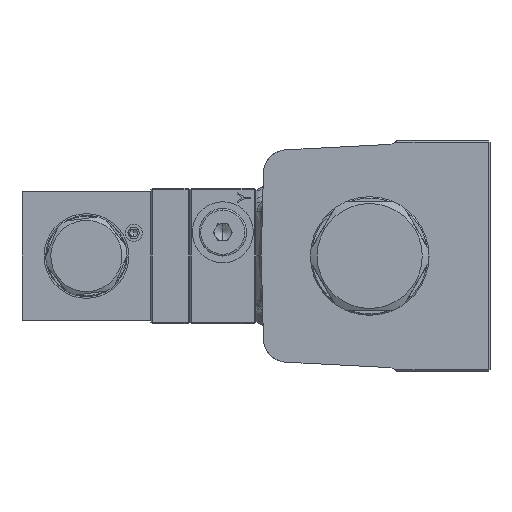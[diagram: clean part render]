
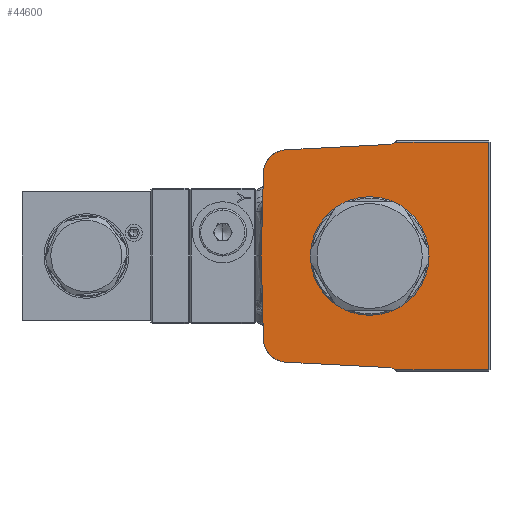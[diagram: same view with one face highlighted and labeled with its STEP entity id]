
A CAD part, left-side view. The second image highlights one B-rep face of the part: STEP entity #44600.
In plain terms, the highlighted planar face has unit normal (-1, 0, 0).
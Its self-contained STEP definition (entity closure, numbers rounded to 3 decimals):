
#375 = EDGE_CURVE ( 'NONE', #61215, #80076, #78646, .T. ) ;
#387 = LINE ( 'NONE', #1226, #75659 ) ;
#750 = EDGE_CURVE ( 'NONE', #77781, #33277, #2179, .T. ) ;
#1226 = CARTESIAN_POINT ( 'NONE',  ( -46.6, -35., -34. ) ) ;
#1657 = AXIS2_PLACEMENT_3D ( 'NONE', #69534, #19545, #32067 ) ;
#2179 = CIRCLE ( 'NONE', #81119, 7. ) ;
#2203 = EDGE_CURVE ( 'NONE', #48576, #56579, #36891, .T. ) ;
#2226 = CIRCLE ( 'NONE', #16373, 3. ) ;
#2984 = CIRCLE ( 'NONE', #1657, 7. ) ;
#4309 = DIRECTION ( 'NONE',  ( 0., -0.026, -1. ) ) ;
#4529 = ORIENTED_EDGE ( 'NONE', *, *, #14540, .T. ) ;
#5450 = CARTESIAN_POINT ( 'NONE',  ( -46.6, -5.693, 35.936 ) ) ;
#6453 = FACE_BOUND ( 'NONE', #38158, .T. ) ;
#7222 = DIRECTION ( 'NONE',  ( 0., -1., 0. ) ) ;
#7841 = CARTESIAN_POINT ( 'NONE',  ( -46.6, -5.693, -35.936 ) ) ;
#8915 = EDGE_CURVE ( 'NONE', #80076, #68081, #387, .T. ) ;
#9697 = VECTOR ( 'NONE', #39644, 1000. ) ;
#10271 = EDGE_CURVE ( 'NONE', #77781, #48953, #56761, .T. ) ;
#10874 = DIRECTION ( 'NONE',  ( 0., -0.999, -0.052 ) ) ;
#11026 = VERTEX_POINT ( 'NONE', #80133 ) ;
#11122 = ORIENTED_EDGE ( 'NONE', *, *, #12530, .T. ) ;
#12062 = CARTESIAN_POINT ( 'NONE',  ( -46.6, -7.444, -33.5 ) ) ;
#12530 = EDGE_CURVE ( 'NONE', #11026, #48953, #77303, .T. ) ;
#14540 = EDGE_CURVE ( 'NONE', #28316, #61215, #2226, .T. ) ;
#15502 = CARTESIAN_POINT ( 'NONE',  ( -46.6, -35.5, -34. ) ) ;
#16027 = DIRECTION ( 'NONE',  ( 0., 0., 1. ) ) ;
#16075 = CARTESIAN_POINT ( 'NONE',  ( -46.6, 31.978, -0.837 ) ) ;
#16206 = ORIENTED_EDGE ( 'NONE', *, *, #37395, .F. ) ;
#16373 = AXIS2_PLACEMENT_3D ( 'NONE', #7841, #21477, #51750 ) ;
#18042 = CARTESIAN_POINT ( 'NONE',  ( -46.6, 31.358, -24.53 ) ) ;
#18208 = ORIENTED_EDGE ( 'NONE', *, *, #38432, .T. ) ;
#19545 = DIRECTION ( 'NONE',  ( 1., 0., 0. ) ) ;
#20483 = CARTESIAN_POINT ( 'NONE',  ( -46.6, 0., 0. ) ) ;
#21477 = DIRECTION ( 'NONE',  ( 1., 0., 0. ) ) ;
#21664 = CIRCLE ( 'NONE', #22057, 16. ) ;
#22057 = AXIS2_PLACEMENT_3D ( 'NONE', #20483, #58133, #70737 ) ;
#26131 = CIRCLE ( 'NONE', #60396, 16. ) ;
#26755 = ORIENTED_EDGE ( 'NONE', *, *, #61665, .T. ) ;
#28316 = VERTEX_POINT ( 'NONE', #78386 ) ;
#29599 = DIRECTION ( 'NONE',  ( 0., -0.999, 0.052 ) ) ;
#31175 = ORIENTED_EDGE ( 'NONE', *, *, #750, .T. ) ;
#31749 = CARTESIAN_POINT ( 'NONE',  ( -46.6, -16., 0. ) ) ;
#31965 = VERTEX_POINT ( 'NONE', #32302 ) ;
#32067 = DIRECTION ( 'NONE',  ( 0., 0., 1. ) ) ;
#32165 = LINE ( 'NONE', #39361, #9697 ) ;
#32302 = CARTESIAN_POINT ( 'NONE',  ( -46.6, 24.726, -31.337 ) ) ;
#33102 = CARTESIAN_POINT ( 'NONE',  ( -46.6, -35.5, 33.5 ) ) ;
#33176 = ORIENTED_EDGE ( 'NONE', *, *, #66497, .F. ) ;
#33277 = VERTEX_POINT ( 'NONE', #56061 ) ;
#33536 = AXIS2_PLACEMENT_3D ( 'NONE', #15502, #34048, #16027 ) ;
#34048 = DIRECTION ( 'NONE',  ( -1., 0., 0. ) ) ;
#36714 = EDGE_CURVE ( 'NONE', #59312, #73604, #26131, .T. ) ;
#36891 = LINE ( 'NONE', #16075, #80025 ) ;
#37305 = DIRECTION ( 'NONE',  ( -1., 0., 0. ) ) ;
#37395 = EDGE_CURVE ( 'NONE', #48576, #33277, #32165, .T. ) ;
#37420 = ORIENTED_EDGE ( 'NONE', *, *, #2203, .T. ) ;
#38158 = EDGE_LOOP ( 'NONE', ( #49921, #68826 ) ) ;
#38432 = EDGE_CURVE ( 'NONE', #68081, #11026, #76851, .T. ) ;
#39080 = CARTESIAN_POINT ( 'NONE',  ( -46.6, 0., 0. ) ) ;
#39361 = CARTESIAN_POINT ( 'NONE',  ( -46.6, 31.978, 0.837 ) ) ;
#39644 = DIRECTION ( 'NONE',  ( 0., -0.026, 1. ) ) ;
#39689 = PLANE ( 'NONE',  #33536 ) ;
#42163 = DIRECTION ( 'NONE',  ( 1., 0., 0. ) ) ;
#43281 = CARTESIAN_POINT ( 'NONE',  ( -46.6, -35., 33.5 ) ) ;
#43282 = DIRECTION ( 'NONE',  ( 0., 0., 1. ) ) ;
#44600 = ADVANCED_FACE ( 'NONE', ( #71971, #6453 ), #39689, .T. ) ;
#44826 = CARTESIAN_POINT ( 'NONE',  ( -46.6, -35.5, -33.5 ) ) ;
#46328 = CARTESIAN_POINT ( 'NONE',  ( -46.6, -5.85, 32.94 ) ) ;
#48576 = VERTEX_POINT ( 'NONE', #61403 ) ;
#48820 = CARTESIAN_POINT ( 'NONE',  ( -46.6, 24.726, 31.337 ) ) ;
#48953 = VERTEX_POINT ( 'NONE', #46328 ) ;
#49277 = VECTOR ( 'NONE', #68444, 1000. ) ;
#49921 = ORIENTED_EDGE ( 'NONE', *, *, #74836, .F. ) ;
#50775 = VECTOR ( 'NONE', #10874, 1000. ) ;
#51750 = DIRECTION ( 'NONE',  ( 0., 0., 1. ) ) ;
#54824 = AXIS2_PLACEMENT_3D ( 'NONE', #5450, #42163, #43282 ) ;
#56061 = CARTESIAN_POINT ( 'NONE',  ( -46.6, 31.358, 24.53 ) ) ;
#56579 = VERTEX_POINT ( 'NONE', #18042 ) ;
#56660 = DIRECTION ( 'NONE',  ( -1., 0., 0. ) ) ;
#56761 = LINE ( 'NONE', #80137, #68508 ) ;
#58133 = DIRECTION ( 'NONE',  ( -1., 0., 0. ) ) ;
#59312 = VERTEX_POINT ( 'NONE', #76463 ) ;
#60396 = AXIS2_PLACEMENT_3D ( 'NONE', #39080, #56660, #7222 ) ;
#60984 = ORIENTED_EDGE ( 'NONE', *, *, #375, .T. ) ;
#61215 = VERTEX_POINT ( 'NONE', #12062 ) ;
#61403 = CARTESIAN_POINT ( 'NONE',  ( -46.6, 32., 0. ) ) ;
#61665 = EDGE_CURVE ( 'NONE', #31965, #28316, #63536, .T. ) ;
#62269 = CARTESIAN_POINT ( 'NONE',  ( -46.6, 24.36, 24.347 ) ) ;
#63536 = LINE ( 'NONE', #72581, #50775 ) ;
#66497 = EDGE_CURVE ( 'NONE', #31965, #56579, #2984, .T. ) ;
#66890 = CARTESIAN_POINT ( 'NONE',  ( -46.6, -35., -33.5 ) ) ;
#68081 = VERTEX_POINT ( 'NONE', #43281 ) ;
#68444 = DIRECTION ( 'NONE',  ( 0., -1., 0. ) ) ;
#68508 = VECTOR ( 'NONE', #29599, 1000. ) ;
#68826 = ORIENTED_EDGE ( 'NONE', *, *, #36714, .F. ) ;
#69012 = DIRECTION ( 'NONE',  ( 0., 0., 1. ) ) ;
#69534 = CARTESIAN_POINT ( 'NONE',  ( -46.6, 24.36, -24.347 ) ) ;
#69749 = DIRECTION ( 'NONE',  ( 0., 1., 0. ) ) ;
#69859 = EDGE_LOOP ( 'NONE', ( #4529, #60984, #77047, #18208, #11122, #74630, #31175, #16206, #37420, #33176, #26755 ) ) ;
#70084 = VECTOR ( 'NONE', #69749, 1000. ) ;
#70737 = DIRECTION ( 'NONE',  ( 0., -1., 0. ) ) ;
#71971 = FACE_OUTER_BOUND ( 'NONE', #69859, .T. ) ;
#72581 = CARTESIAN_POINT ( 'NONE',  ( -46.6, 1.706, -32.544 ) ) ;
#73604 = VERTEX_POINT ( 'NONE', #31749 ) ;
#74630 = ORIENTED_EDGE ( 'NONE', *, *, #10271, .F. ) ;
#74836 = EDGE_CURVE ( 'NONE', #73604, #59312, #21664, .T. ) ;
#75659 = VECTOR ( 'NONE', #69012, 1000. ) ;
#76463 = CARTESIAN_POINT ( 'NONE',  ( -46.6, 16., 0. ) ) ;
#76851 = LINE ( 'NONE', #33102, #70084 ) ;
#77047 = ORIENTED_EDGE ( 'NONE', *, *, #8915, .T. ) ;
#77303 = CIRCLE ( 'NONE', #54824, 3. ) ;
#77781 = VERTEX_POINT ( 'NONE', #48820 ) ;
#78386 = CARTESIAN_POINT ( 'NONE',  ( -46.6, -5.85, -32.94 ) ) ;
#78646 = LINE ( 'NONE', #44826, #49277 ) ;
#80025 = VECTOR ( 'NONE', #4309, 1000. ) ;
#80076 = VERTEX_POINT ( 'NONE', #66890 ) ;
#80133 = CARTESIAN_POINT ( 'NONE',  ( -46.6, -7.444, 33.5 ) ) ;
#80137 = CARTESIAN_POINT ( 'NONE',  ( -46.6, 1.706, 32.544 ) ) ;
#81119 = AXIS2_PLACEMENT_3D ( 'NONE', #62269, #37305, #81171 ) ;
#81171 = DIRECTION ( 'NONE',  ( 0., 0., 1. ) ) ;
